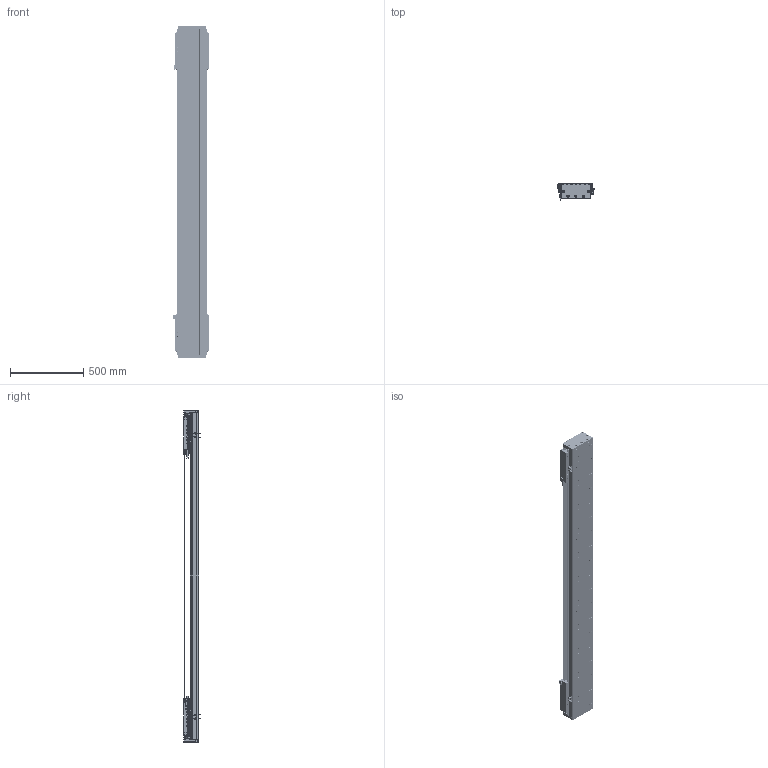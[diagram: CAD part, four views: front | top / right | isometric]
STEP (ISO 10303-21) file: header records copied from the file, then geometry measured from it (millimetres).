
FILE_DESCRIPTION (( 'STEP AP203' ), '1' );
FILE_NAME ('DA-C195-2-C3-T1640-C010-0.2 眻盄萇儂.STEP', '2025-08-15T00:42:52', ( '' ), ( '' ), 'SwSTEP 2.0', 'SolidWorks 2019', '' );
FILE_SCHEMA (( 'CONFIG_CONTROL_DESIGN' ));
Length unit declared in the file: millimetre
Products named in the file (19): 葩璃 DA95-GT-T-00; DKW-KGZ-ZJ-00 中间光电开关支架; DKW-GYP-ZJ-00 笢潔嫖萇覜茼え; DA165-GYP-00 光电感应片(默认); DA195詩湍嶺輸; IU-CU195-L 菁釱絳寢; MS200 棠掑喜S315-T240; DA-C195-GD-DB-H-00 傷啣; PM-T45ㄗ侂狟ㄘ; IU-CU195-L-00 菁釱(L2220); CU195-C3賑輸-俋楷; LMT黍杅芛; DA195詩湍裔啣; DA195詩湍菜輸; DKW168-HXJ-ZJ-00 笢潔滅袉砎蝶; DA95-HXJ-00 遣喳砎蝶; PM-Y65嫖萇羲壽郪璃; DA-C195-2-C3-T1640-C010-0.2 眻盄萇儂; DA195詩湍郪璃
Assembly tree (37 placements, depth 3):
  DA-C195-2-C3-T1640-C010-0.2 眻盄萇儂
    DA195詩湍郪璃
      DA195詩湍菜輸  x2
      DA195詩湍裔啣
      DA195詩湍嶺輸  x2
      DA95-HXJ-00 遣喳砎蝶  x8
      DA-C195-GD-DB-H-00 傷啣  x2
    IU-CU195-L 菁釱絳寢
      IU-CU195-L-00 菁釱(L2220)
      葩璃 DA95-GT-T-00  x4
    LMT黍杅芛  x2
    MS200 棠掑喜S315-T240
    PM-T45ㄗ侂狟ㄘ  x4
    DA165-GYP-00 光电感应片(默认)  x2
    PM-Y65嫖萇羲壽郪璃
    DKW168-HXJ-ZJ-00 笢潔滅袉砎蝶
    DKW-GYP-ZJ-00 笢潔嫖萇覜茼え
    DKW-KGZ-ZJ-00 中间光电开关支架
    CU195-C3賑輸-俋楷  x2
Bounding box: 258.2 x 115.45 x 2260 mm (x, y, z)
Volume: 15207551.6 mm3; surface area: 4318079.1 mm2
Topology: 154 solids, 218 shells, 6751 faces, 17895 edges, 11125 vertices
Faces by surface type: cylinder 3154, plane 2545, cone 884, torus 88, sphere 72, bspline 8
Entity records: 142537 total; most frequent: CARTESIAN_POINT 37161, ORIENTED_EDGE 21806, DIRECTION 21104, EDGE_CURVE 10903, AXIS2_PLACEMENT_3D 7753, VERTEX_POINT 7050, VECTOR 5598, LINE 5598
